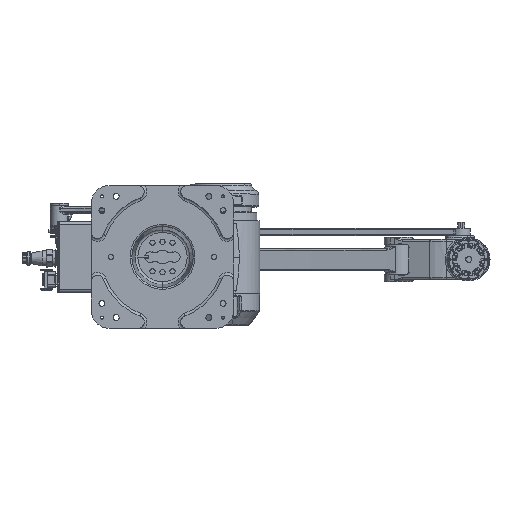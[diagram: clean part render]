
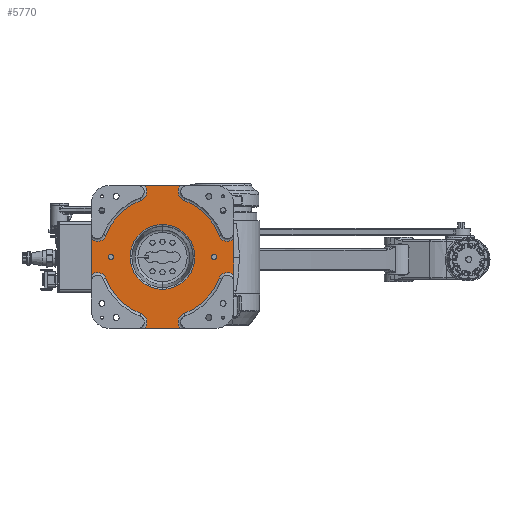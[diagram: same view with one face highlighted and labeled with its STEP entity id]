
A CAD part, top view. The second image highlights one B-rep face of the part: STEP entity #5770.
In plain terms, the highlighted planar face has unit normal (0, 0, 1).
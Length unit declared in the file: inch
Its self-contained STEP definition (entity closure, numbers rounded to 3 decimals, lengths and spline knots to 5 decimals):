
#244=CARTESIAN_POINT('',(-37.16789,0.,
3.50394));
#245=DIRECTION('',(0.,0.,1.));
#246=DIRECTION('',(0.,1.,0.));
#247=AXIS2_PLACEMENT_3D('',#244,#245,#246);
#249=CARTESIAN_POINT('',(-37.16789,0.,
3.50394));
#250=DIRECTION('',(0.,0.,1.));
#251=DIRECTION('',(0.,-1.,0.));
#252=AXIS2_PLACEMENT_3D('',#249,#250,#251);
#254=CARTESIAN_POINT('',(-48.58521,0.,
3.50394));
#255=DIRECTION('',(0.,0.,1.));
#256=DIRECTION('',(0.,1.,0.));
#257=AXIS2_PLACEMENT_3D('',#254,#255,#256);
#259=CARTESIAN_POINT('',(-48.58521,0.,
3.50394));
#260=DIRECTION('',(0.,0.,1.));
#261=DIRECTION('',(0.,-1.,0.));
#262=AXIS2_PLACEMENT_3D('',#259,#260,#261);
#264=CARTESIAN_POINT('',(-42.87655,0.,
3.50394));
#265=DIRECTION('',(0.,0.,-1.));
#266=DIRECTION('',(0.,-1.,0.));
#267=AXIS2_PLACEMENT_3D('',#264,#265,#266);
#269=CARTESIAN_POINT('',(-42.87655,0.,
3.50394));
#270=DIRECTION('',(0.,0.,-1.));
#271=DIRECTION('',(0.,1.,0.));
#272=AXIS2_PLACEMENT_3D('',#269,#270,#271);
#274=CARTESIAN_POINT('',(-45.58101,7.18504,3.50394));
#275=DIRECTION('',(0.,0.,-1.));
#276=DIRECTION('',(0.712,0.702,0.));
#277=AXIS2_PLACEMENT_3D('',#274,#275,#276);
#279=DIRECTION('',(-1.,0.,0.));
#280=VECTOR('',#279,4.01237);
#281=CARTESIAN_POINT('',(-40.87037,7.87402,3.50394));
#282=LINE('',#281,#280);
#283=CARTESIAN_POINT('',(-40.1721,7.18504,3.50394));
#284=DIRECTION('',(0.,0.,-1.));
#285=DIRECTION('',(-0.352,-0.936,0.));
#286=AXIS2_PLACEMENT_3D('',#283,#284,#285);
#288=CARTESIAN_POINT('',(-42.87655,0.,
3.50394));
#289=DIRECTION('',(0.,0.,1.));
#290=DIRECTION('',(0.936,0.352,0.));
#291=AXIS2_PLACEMENT_3D('',#288,#289,#290);
#293=CARTESIAN_POINT('',(-35.69151,2.70446,3.50394));
#294=DIRECTION('',(0.,0.,-1.));
#295=DIRECTION('',(0.702,-0.712,0.));
#296=AXIS2_PLACEMENT_3D('',#293,#294,#295);
#298=DIRECTION('',(0.,1.,0.));
#299=VECTOR('',#298,4.01237);
#300=CARTESIAN_POINT('',(-35.00254,-2.00619,3.50394));
#301=LINE('',#300,#299);
#302=CARTESIAN_POINT('',(-35.69151,-2.70446,3.50394));
#303=DIRECTION('',(0.,0.,-1.));
#304=DIRECTION('',(-0.936,0.352,0.));
#305=AXIS2_PLACEMENT_3D('',#302,#303,#304);
#307=CARTESIAN_POINT('',(-42.87655,0.,
3.50394));
#308=DIRECTION('',(0.,0.,1.));
#309=DIRECTION('',(0.352,-0.936,0.));
#310=AXIS2_PLACEMENT_3D('',#307,#308,#309);
#312=CARTESIAN_POINT('',(-40.1721,-7.18504,3.50394));
#313=DIRECTION('',(0.,0.,-1.));
#314=DIRECTION('',(-0.712,-0.702,0.));
#315=AXIS2_PLACEMENT_3D('',#312,#313,#314);
#317=DIRECTION('',(1.,0.,0.));
#318=VECTOR('',#317,4.01237);
#319=CARTESIAN_POINT('',(-44.88274,-7.87402,3.50394));
#320=LINE('',#319,#318);
#321=CARTESIAN_POINT('',(-45.58101,-7.18504,3.50394));
#322=DIRECTION('',(0.,0.,-1.));
#323=DIRECTION('',(0.352,0.936,0.));
#324=AXIS2_PLACEMENT_3D('',#321,#322,#323);
#326=CARTESIAN_POINT('',(-42.87655,0.,
3.50394));
#327=DIRECTION('',(0.,0.,1.));
#328=DIRECTION('',(-0.936,-0.352,0.));
#329=AXIS2_PLACEMENT_3D('',#326,#327,#328);
#331=CARTESIAN_POINT('',(-50.06159,-2.70446,3.50394));
#332=DIRECTION('',(0.,0.,-1.));
#333=DIRECTION('',(-0.702,0.712,0.));
#334=AXIS2_PLACEMENT_3D('',#331,#332,#333);
#336=DIRECTION('',(0.,-1.,0.));
#337=VECTOR('',#336,4.01237);
#338=CARTESIAN_POINT('',(-50.75057,2.00619,3.50394));
#339=LINE('',#338,#337);
#340=CARTESIAN_POINT('',(-50.06159,2.70446,3.50394));
#341=DIRECTION('',(0.,0.,-1.));
#342=DIRECTION('',(0.936,-0.352,0.));
#343=AXIS2_PLACEMENT_3D('',#340,#341,#342);
#345=CARTESIAN_POINT('',(-42.87655,0.,
3.50394));
#346=DIRECTION('',(0.,0.,1.));
#347=DIRECTION('',(-0.352,0.936,0.));
#348=AXIS2_PLACEMENT_3D('',#345,#346,#347);
#414=CARTESIAN_POINT('',(-40.87037,7.87402,3.50394));
#1333=CARTESIAN_POINT('',(-44.88274,-7.87402,
3.50394));
#2005=CARTESIAN_POINT('',(-35.00254,-2.00619,
3.50394));
#2292=CARTESIAN_POINT('',(-44.88274,7.87402,3.50394));
#3225=CARTESIAN_POINT('',(-40.87037,-7.87402,
3.50394));
#4603=CARTESIAN_POINT('',(-40.51766,-6.26697,
3.50394));
#4604=CARTESIAN_POINT('',(-36.60959,-2.35889,
3.50394));
#4605=VERTEX_POINT('',#4603);
#4606=VERTEX_POINT('',#4604);
#4674=CARTESIAN_POINT('',(-36.60959,2.35889,3.50394));
#4675=CARTESIAN_POINT('',(-40.51766,6.26697,3.50394));
#4676=VERTEX_POINT('',#4674);
#4677=VERTEX_POINT('',#4675);
#4682=CARTESIAN_POINT('',(-42.87655,-3.57817,
3.50394));
#4683=CARTESIAN_POINT('',(-42.87655,3.57817,3.50394));
#4684=VERTEX_POINT('',#4682);
#4685=VERTEX_POINT('',#4683);
#4693=VERTEX_POINT('',#414);
#4715=VERTEX_POINT('',#3225);
#4765=CARTESIAN_POINT('',(-49.14352,-2.35889,
3.50394));
#4767=VERTEX_POINT('',#4765);
#4836=VERTEX_POINT('',#2292);
#4846=CARTESIAN_POINT('',(-50.75057,2.00619,3.50394));
#4847=CARTESIAN_POINT('',(-50.75057,-2.00619,
3.50394));
#4848=VERTEX_POINT('',#4846);
#4849=VERTEX_POINT('',#4847);
#4855=CARTESIAN_POINT('',(-49.14352,2.35889,3.50394));
#4857=VERTEX_POINT('',#4855);
#4921=CARTESIAN_POINT('',(-35.00254,2.00619,3.50394));
#4922=VERTEX_POINT('',#4921);
#4928=VERTEX_POINT('',#1333);
#4929=CARTESIAN_POINT('',(-45.23545,-6.26697,
3.50394));
#4930=VERTEX_POINT('',#4929);
#4994=CARTESIAN_POINT('',(-45.23545,6.26697,3.50394));
#4995=VERTEX_POINT('',#4994);
#5034=VERTEX_POINT('',#2005);
#5057=CARTESIAN_POINT('',(-48.58521,-0.28543,
3.50394));
#5058=CARTESIAN_POINT('',(-48.58521,0.28543,
3.50394));
#5059=VERTEX_POINT('',#5057);
#5060=VERTEX_POINT('',#5058);
#5061=CARTESIAN_POINT('',(-37.16789,-0.28543,
3.50394));
#5062=CARTESIAN_POINT('',(-37.16789,0.28543,
3.50394));
#5063=VERTEX_POINT('',#5061);
#5064=VERTEX_POINT('',#5062);
#5715=CARTESIAN_POINT('',(-42.87655,0.,
3.50394));
#5716=DIRECTION('',(0.,0.,-1.));
#5717=DIRECTION('',(0.,-1.,0.));
#5718=AXIS2_PLACEMENT_3D('',#5715,#5716,#5717);
#5719=PLANE('',#5718);
#5720=ORIENTED_EDGE('',*,*,#5469,.F.);
#5722=ORIENTED_EDGE('',*,*,#5721,.F.);
#5724=ORIENTED_EDGE('',*,*,#5723,.F.);
#5726=ORIENTED_EDGE('',*,*,#5725,.F.);
#5728=ORIENTED_EDGE('',*,*,#5727,.F.);
#5730=ORIENTED_EDGE('',*,*,#5729,.F.);
#5732=ORIENTED_EDGE('',*,*,#5731,.F.);
#5734=ORIENTED_EDGE('',*,*,#5733,.F.);
#5736=ORIENTED_EDGE('',*,*,#5735,.F.);
#5738=ORIENTED_EDGE('',*,*,#5737,.F.);
#5740=ORIENTED_EDGE('',*,*,#5739,.F.);
#5742=ORIENTED_EDGE('',*,*,#5741,.F.);
#5744=ORIENTED_EDGE('',*,*,#5743,.F.);
#5746=ORIENTED_EDGE('',*,*,#5745,.F.);
#5748=ORIENTED_EDGE('',*,*,#5747,.F.);
#5750=ORIENTED_EDGE('',*,*,#5749,.F.);
#5751=EDGE_LOOP('',(#5720,#5722,#5724,#5726,#5728,#5730,#5732,#5734,#5736,#5738,
#5740,#5742,#5744,#5746,#5748,#5750));
#5752=FACE_OUTER_BOUND('',#5751,.F.);
#5754=ORIENTED_EDGE('',*,*,#5753,.T.);
#5756=ORIENTED_EDGE('',*,*,#5755,.T.);
#5757=EDGE_LOOP('',(#5754,#5756));
#5758=FACE_BOUND('',#5757,.F.);
#5760=ORIENTED_EDGE('',*,*,#5759,.F.);
#5761=ORIENTED_EDGE('',*,*,#5527,.F.);
#5762=EDGE_LOOP('',(#5760,#5761));
#5763=FACE_BOUND('',#5762,.F.);
#5765=ORIENTED_EDGE('',*,*,#5764,.T.);
#5767=ORIENTED_EDGE('',*,*,#5766,.T.);
#5768=EDGE_LOOP('',(#5765,#5767));
#5769=FACE_BOUND('',#5768,.F.);
#248=CIRCLE('',#247,0.28543);
#253=CIRCLE('',#252,0.28543);
#258=CIRCLE('',#257,0.28543);
#263=CIRCLE('',#262,0.28543);
#268=CIRCLE('',#267,3.57817);
#273=CIRCLE('',#272,3.57817);
#278=CIRCLE('',#277,0.98095);
#287=CIRCLE('',#286,0.98095);
#292=CIRCLE('',#291,6.69621);
#297=CIRCLE('',#296,0.98095);
#306=CIRCLE('',#305,0.98095);
#311=CIRCLE('',#310,6.69621);
#316=CIRCLE('',#315,0.98095);
#325=CIRCLE('',#324,0.98095);
#330=CIRCLE('',#329,6.69621);
#335=CIRCLE('',#334,0.98095);
#344=CIRCLE('',#343,0.98095);
#349=CIRCLE('',#348,6.69621);
#5469=EDGE_CURVE('',#4836,#4995,#278,.T.);
#5527=EDGE_CURVE('',#4685,#4684,#273,.T.);
#5721=EDGE_CURVE('',#4693,#4836,#282,.T.);
#5723=EDGE_CURVE('',#4677,#4693,#287,.T.);
#5725=EDGE_CURVE('',#4676,#4677,#292,.T.);
#5727=EDGE_CURVE('',#4922,#4676,#297,.T.);
#5729=EDGE_CURVE('',#5034,#4922,#301,.T.);
#5731=EDGE_CURVE('',#4606,#5034,#306,.T.);
#5733=EDGE_CURVE('',#4605,#4606,#311,.T.);
#5735=EDGE_CURVE('',#4715,#4605,#316,.T.);
#5737=EDGE_CURVE('',#4928,#4715,#320,.T.);
#5739=EDGE_CURVE('',#4930,#4928,#325,.T.);
#5741=EDGE_CURVE('',#4767,#4930,#330,.T.);
#5743=EDGE_CURVE('',#4849,#4767,#335,.T.);
#5745=EDGE_CURVE('',#4848,#4849,#339,.T.);
#5747=EDGE_CURVE('',#4857,#4848,#344,.T.);
#5749=EDGE_CURVE('',#4995,#4857,#349,.T.);
#5753=EDGE_CURVE('',#5060,#5059,#258,.T.);
#5755=EDGE_CURVE('',#5059,#5060,#263,.T.);
#5759=EDGE_CURVE('',#4684,#4685,#268,.T.);
#5764=EDGE_CURVE('',#5064,#5063,#248,.T.);
#5766=EDGE_CURVE('',#5063,#5064,#253,.T.);
#5770=ADVANCED_FACE('',(#5752,#5758,#5763,#5769),#5719,.F.);
